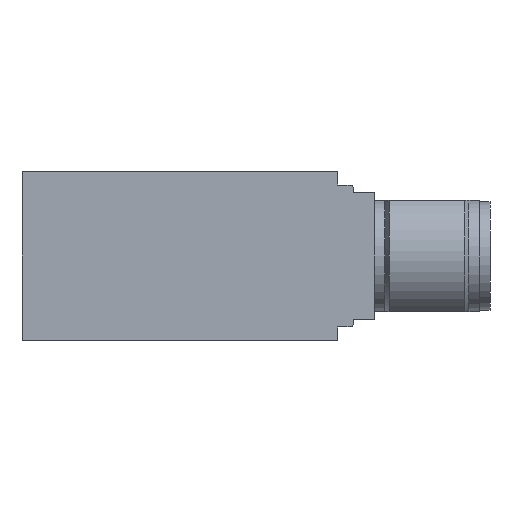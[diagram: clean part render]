
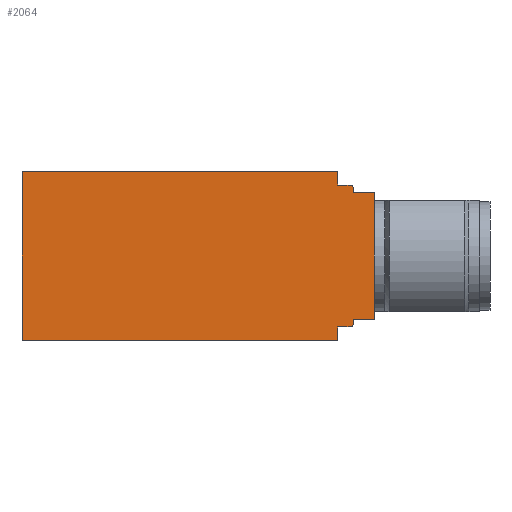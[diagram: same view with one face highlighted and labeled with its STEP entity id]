
A CAD part, front view. The second image highlights one B-rep face of the part: STEP entity #2064.
In plain terms, the highlighted planar face has unit normal (0, -1, 0) as drawn and (0, 0, -1) by its records, which use the part's own axes.
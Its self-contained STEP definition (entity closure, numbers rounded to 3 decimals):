
#52=LINE('',#3124,#194);
#60=LINE('',#3139,#202);
#92=LINE('',#3242,#234);
#108=LINE('',#3287,#250);
#124=LINE('',#3320,#266);
#125=LINE('',#3323,#267);
#126=LINE('',#3327,#268);
#127=LINE('',#3329,#269);
#128=LINE('',#3331,#270);
#129=LINE('',#3333,#271);
#130=LINE('',#3335,#272);
#131=LINE('',#3338,#273);
#194=VECTOR('',#2478,1.25);
#202=VECTOR('',#2486,1.25);
#234=VECTOR('',#2590,30.);
#250=VECTOR('',#2634,16.);
#266=VECTOR('',#2672,30.);
#267=VECTOR('',#2675,1.2);
#268=VECTOR('',#2678,0.45);
#269=VECTOR('',#2679,2.);
#270=VECTOR('',#2680,12.);
#271=VECTOR('',#2681,2.);
#272=VECTOR('',#2682,0.45);
#273=VECTOR('',#2685,1.2);
#382=PLANE('',#2245);
#512=FACE_OUTER_BOUND('',#657,.T.);
#657=EDGE_LOOP('',(#1588,#1589,#1590,#1591,#1592,#1593,#1594,#1595,#1596,
#1597,#1598,#1599,#1600,#1601));
#797=CIRCLE('',#2246,0.3);
#798=CIRCLE('',#2247,0.3);
#889=VERTEX_POINT('',#3116);
#892=VERTEX_POINT('',#3121);
#893=VERTEX_POINT('',#3123);
#900=VERTEX_POINT('',#3137);
#935=VERTEX_POINT('',#3240);
#950=VERTEX_POINT('',#3285);
#957=VERTEX_POINT('',#3322);
#958=VERTEX_POINT('',#3324);
#959=VERTEX_POINT('',#3326);
#960=VERTEX_POINT('',#3328);
#961=VERTEX_POINT('',#3330);
#962=VERTEX_POINT('',#3332);
#963=VERTEX_POINT('',#3334);
#964=VERTEX_POINT('',#3336);
#1092=EDGE_CURVE('',#893,#892,#52,.T.);
#1100=EDGE_CURVE('',#889,#900,#60,.T.);
#1149=EDGE_CURVE('',#900,#935,#92,.T.);
#1171=EDGE_CURVE('',#950,#935,#108,.T.);
#1188=EDGE_CURVE('',#950,#893,#124,.T.);
#1189=EDGE_CURVE('',#892,#957,#125,.T.);
#1190=EDGE_CURVE('',#957,#958,#797,.T.);
#1191=EDGE_CURVE('',#958,#959,#126,.T.);
#1192=EDGE_CURVE('',#959,#960,#127,.T.);
#1193=EDGE_CURVE('',#961,#960,#128,.T.);
#1194=EDGE_CURVE('',#962,#961,#129,.T.);
#1195=EDGE_CURVE('',#963,#962,#130,.T.);
#1196=EDGE_CURVE('',#964,#963,#798,.T.);
#1197=EDGE_CURVE('',#889,#964,#131,.T.);
#1588=ORIENTED_EDGE('',*,*,#1189,.T.);
#1589=ORIENTED_EDGE('',*,*,#1190,.T.);
#1590=ORIENTED_EDGE('',*,*,#1191,.T.);
#1591=ORIENTED_EDGE('',*,*,#1192,.T.);
#1592=ORIENTED_EDGE('',*,*,#1193,.F.);
#1593=ORIENTED_EDGE('',*,*,#1194,.F.);
#1594=ORIENTED_EDGE('',*,*,#1195,.F.);
#1595=ORIENTED_EDGE('',*,*,#1196,.F.);
#1596=ORIENTED_EDGE('',*,*,#1197,.F.);
#1597=ORIENTED_EDGE('',*,*,#1100,.T.);
#1598=ORIENTED_EDGE('',*,*,#1149,.T.);
#1599=ORIENTED_EDGE('',*,*,#1171,.F.);
#1600=ORIENTED_EDGE('',*,*,#1188,.T.);
#1601=ORIENTED_EDGE('',*,*,#1092,.T.);
#2064=ADVANCED_FACE('',(#512),#382,.F.);
#2245=AXIS2_PLACEMENT_3D('',#3321,#2673,#2674);
#2246=AXIS2_PLACEMENT_3D('',#3325,#2676,#2677);
#2247=AXIS2_PLACEMENT_3D('',#3337,#2683,#2684);
#2478=DIRECTION('',(0.,-1.,0.));
#2486=DIRECTION('',(0.,-1.,0.));
#2590=DIRECTION('',(-1.,0.,0.));
#2634=DIRECTION('',(0.,-1.,0.));
#2672=DIRECTION('',(1.,0.,0.));
#2673=DIRECTION('center_axis',(0.,0.,1.));
#2674=DIRECTION('ref_axis',(1.,0.,0.));
#2675=DIRECTION('',(1.,0.,0.));
#2676=DIRECTION('center_axis',(0.,0.,-1.));
#2677=DIRECTION('ref_axis',(0.707,0.707,0.));
#2678=DIRECTION('',(0.,-1.,0.));
#2679=DIRECTION('',(1.,0.,0.));
#2680=DIRECTION('',(0.,1.,0.));
#2681=DIRECTION('',(1.,0.,0.));
#2682=DIRECTION('',(0.,1.,0.));
#2683=DIRECTION('center_axis',(0.,0.,1.));
#2684=DIRECTION('ref_axis',(0.707,-0.707,0.));
#2685=DIRECTION('',(1.,0.,0.));
#3116=CARTESIAN_POINT('',(15.,-14.75,-43.));
#3121=CARTESIAN_POINT('',(15.,-1.25,-43.));
#3123=CARTESIAN_POINT('',(15.,0.,-43.));
#3124=CARTESIAN_POINT('',(15.,0.,-43.));
#3137=CARTESIAN_POINT('',(15.,-16.,-43.));
#3139=CARTESIAN_POINT('',(15.,-14.75,-43.));
#3240=CARTESIAN_POINT('',(-15.,-16.,-43.));
#3242=CARTESIAN_POINT('',(15.,-16.,-43.));
#3285=CARTESIAN_POINT('',(-15.,0.,-43.));
#3287=CARTESIAN_POINT('',(-15.,0.,-43.));
#3320=CARTESIAN_POINT('',(-15.,0.,-43.));
#3321=CARTESIAN_POINT('Origin',(1.75,-16.,-43.));
#3322=CARTESIAN_POINT('',(16.2,-1.25,-43.));
#3323=CARTESIAN_POINT('',(15.,-1.25,-43.));
#3324=CARTESIAN_POINT('',(16.5,-1.55,-43.));
#3325=CARTESIAN_POINT('Origin',(16.2,-1.55,-43.));
#3326=CARTESIAN_POINT('',(16.5,-2.,-43.));
#3327=CARTESIAN_POINT('',(16.5,-1.55,-43.));
#3328=CARTESIAN_POINT('',(18.5,-2.,-43.));
#3329=CARTESIAN_POINT('',(16.5,-2.,-43.));
#3330=CARTESIAN_POINT('',(18.5,-14.,-43.));
#3331=CARTESIAN_POINT('',(18.5,-14.,-43.));
#3332=CARTESIAN_POINT('',(16.5,-14.,-43.));
#3333=CARTESIAN_POINT('',(16.5,-14.,-43.));
#3334=CARTESIAN_POINT('',(16.5,-14.45,-43.));
#3335=CARTESIAN_POINT('',(16.5,-14.45,-43.));
#3336=CARTESIAN_POINT('',(16.2,-14.75,-43.));
#3337=CARTESIAN_POINT('Origin',(16.2,-14.45,-43.));
#3338=CARTESIAN_POINT('',(15.,-14.75,-43.));
